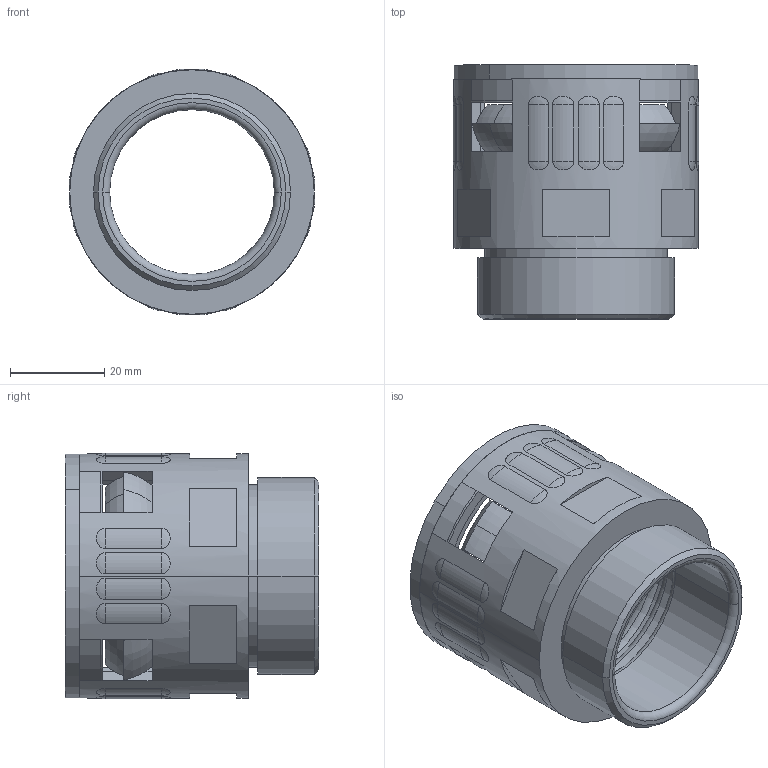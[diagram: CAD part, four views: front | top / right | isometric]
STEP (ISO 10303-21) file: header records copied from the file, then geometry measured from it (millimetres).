
FILE_DESCRIPTION (( 'STEP AP203' ), '1' );
FILE_NAME ('WQG-G1 1-4-AD42.5.STEP', '2020-03-11T04:59:44', ( '' ), ( '' ), 'SwSTEP 2.0', 'SolidWorks 2016', '' );
FILE_SCHEMA (( 'CONFIG_CONTROL_DESIGN' ));
Length unit declared in the file: millimetre
Products named in the file (4): WQG-G1 1-4-AD42.5; WQG-G1 1-4-AD42.5-01; GFD-AD42.5; NSK-AD42.5
Assembly tree (3 placements, depth 2):
  WQG-G1 1-4-AD42.5
    WQG-G1 1-4-AD42.5-01
    GFD-AD42.5
    NSK-AD42.5
Bounding box: 52.21 x 54 x 52.21 mm (x, y, z)
Volume: 30813.7 mm3; surface area: 34592.8 mm2
Topology: 3 solids, 4 shells, 312 faces, 794 edges, 483 vertices
Faces by surface type: plane 113, cone 89, torus 39, cylinder 39, sphere 32
Entity records: 10252 total; most frequent: CARTESIAN_POINT 2563, DIRECTION 1612, ORIENTED_EDGE 1460, EDGE_CURVE 730, AXIS2_PLACEMENT_3D 660, VERTEX_POINT 451, EDGE_LOOP 361, CIRCLE 342
